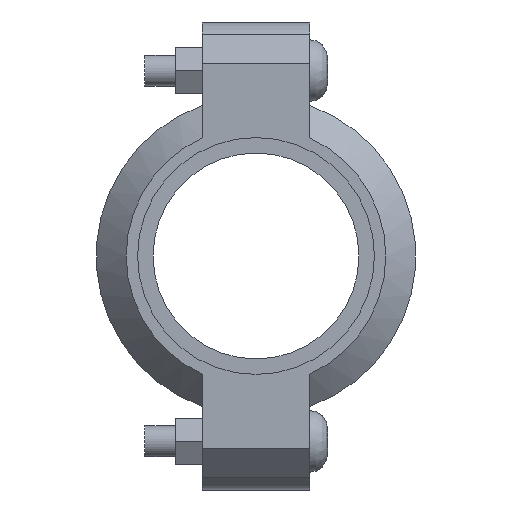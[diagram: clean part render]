
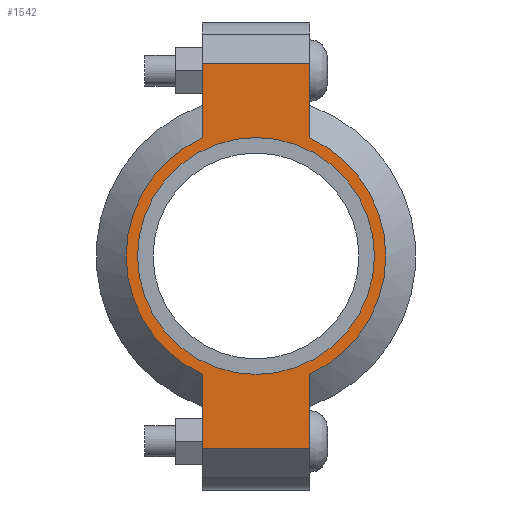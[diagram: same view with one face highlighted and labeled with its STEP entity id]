
A CAD part, left-side view. The second image highlights one B-rep face of the part: STEP entity #1542.
In plain terms, the highlighted planar face has unit normal (-1, 0, 0) as drawn and (0, 0, 1) by its records, which use the part's own axes.
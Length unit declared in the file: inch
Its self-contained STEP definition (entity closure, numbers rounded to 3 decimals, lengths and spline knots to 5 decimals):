
#166=LINE('',#2691,#259);
#174=LINE('',#2727,#267);
#181=LINE('',#2748,#274);
#190=LINE('',#2780,#283);
#191=LINE('',#2784,#284);
#192=LINE('',#2786,#285);
#259=VECTOR('',#2195,0.3937);
#267=VECTOR('',#2211,0.3937);
#274=VECTOR('',#2230,0.3937);
#283=VECTOR('',#2255,0.3937);
#284=VECTOR('',#2260,0.3937);
#285=VECTOR('',#2261,0.3937);
#341=FACE_BOUND('',#519,.T.);
#413=FACE_OUTER_BOUND('',#518,.T.);
#518=EDGE_LOOP('',(#1283,#1284,#1285,#1286,#1287,#1288,#1289,#1290));
#519=EDGE_LOOP('',(#1291));
#591=CIRCLE('',#1761,1.4375);
#617=CIRCLE('',#1820,1.575);
#618=CIRCLE('',#1821,1.575);
#683=VERTEX_POINT('',#2507);
#726=VERTEX_POINT('',#2688);
#727=VERTEX_POINT('',#2690);
#738=VERTEX_POINT('',#2722);
#739=VERTEX_POINT('',#2726);
#746=VERTEX_POINT('',#2745);
#747=VERTEX_POINT('',#2747);
#757=VERTEX_POINT('',#2783);
#758=VERTEX_POINT('',#2785);
#839=EDGE_CURVE('',#683,#683,#591,.T.);
#900=EDGE_CURVE('',#727,#726,#166,.T.);
#914=EDGE_CURVE('',#739,#738,#174,.T.);
#924=EDGE_CURVE('',#747,#746,#181,.T.);
#939=EDGE_CURVE('',#739,#726,#190,.T.);
#940=EDGE_CURVE('',#738,#747,#617,.T.);
#941=EDGE_CURVE('',#757,#746,#191,.T.);
#942=EDGE_CURVE('',#757,#758,#192,.T.);
#943=EDGE_CURVE('',#758,#727,#618,.T.);
#1283=ORIENTED_EDGE('',*,*,#939,.F.);
#1284=ORIENTED_EDGE('',*,*,#914,.T.);
#1285=ORIENTED_EDGE('',*,*,#940,.T.);
#1286=ORIENTED_EDGE('',*,*,#924,.T.);
#1287=ORIENTED_EDGE('',*,*,#941,.F.);
#1288=ORIENTED_EDGE('',*,*,#942,.T.);
#1289=ORIENTED_EDGE('',*,*,#943,.T.);
#1290=ORIENTED_EDGE('',*,*,#900,.T.);
#1291=ORIENTED_EDGE('',*,*,#839,.T.);
#1384=PLANE('',#1819);
#1542=ADVANCED_FACE('',(#413,#341),#1384,.T.);
#1761=AXIS2_PLACEMENT_3D('',#2509,#2071,#2072);
#1819=AXIS2_PLACEMENT_3D('',#2781,#2256,#2257);
#1820=AXIS2_PLACEMENT_3D('',#2782,#2258,#2259);
#1821=AXIS2_PLACEMENT_3D('',#2787,#2262,#2263);
#2071=DIRECTION('center_axis',(0.,0.,-1.));
#2072=DIRECTION('ref_axis',(-1.,0.,0.));
#2195=DIRECTION('',(-1.,0.,0.));
#2211=DIRECTION('',(1.,0.,0.));
#2230=DIRECTION('',(1.,0.,0.));
#2255=DIRECTION('',(0.,1.,0.));
#2256=DIRECTION('center_axis',(0.,0.,1.));
#2257=DIRECTION('ref_axis',(1.,0.,0.));
#2258=DIRECTION('center_axis',(0.,0.,1.));
#2259=DIRECTION('ref_axis',(-1.,0.,0.));
#2260=DIRECTION('',(0.,-1.,0.));
#2261=DIRECTION('',(-1.,0.,0.));
#2262=DIRECTION('center_axis',(0.,0.,1.));
#2263=DIRECTION('ref_axis',(-1.,0.,0.));
#2507=CARTESIAN_POINT('',(1.4375,0.,0.94));
#2509=CARTESIAN_POINT('Origin',(0.,0.,0.94));
#2688=CARTESIAN_POINT('',(-2.34,0.65,0.94));
#2690=CARTESIAN_POINT('',(-1.43462,0.65,0.94));
#2691=CARTESIAN_POINT('',(-2.84,0.65,0.94));
#2722=CARTESIAN_POINT('',(-1.43462,-0.65,0.94));
#2726=CARTESIAN_POINT('',(-2.34,-0.65,0.94));
#2727=CARTESIAN_POINT('',(2.84,-0.65,0.94));
#2745=CARTESIAN_POINT('',(2.34,-0.65,0.94));
#2747=CARTESIAN_POINT('',(1.43462,-0.65,0.94));
#2748=CARTESIAN_POINT('',(2.84,-0.65,0.94));
#2780=CARTESIAN_POINT('',(-2.34,0.325,0.94));
#2781=CARTESIAN_POINT('Origin',(0.,0.,
0.94));
#2782=CARTESIAN_POINT('Origin',(0.,0.,0.94));
#2783=CARTESIAN_POINT('',(2.34,0.65,0.94));
#2784=CARTESIAN_POINT('',(2.34,-0.325,0.94));
#2785=CARTESIAN_POINT('',(1.43462,0.65,0.94));
#2786=CARTESIAN_POINT('',(-2.84,0.65,0.94));
#2787=CARTESIAN_POINT('Origin',(0.,0.,0.94));
